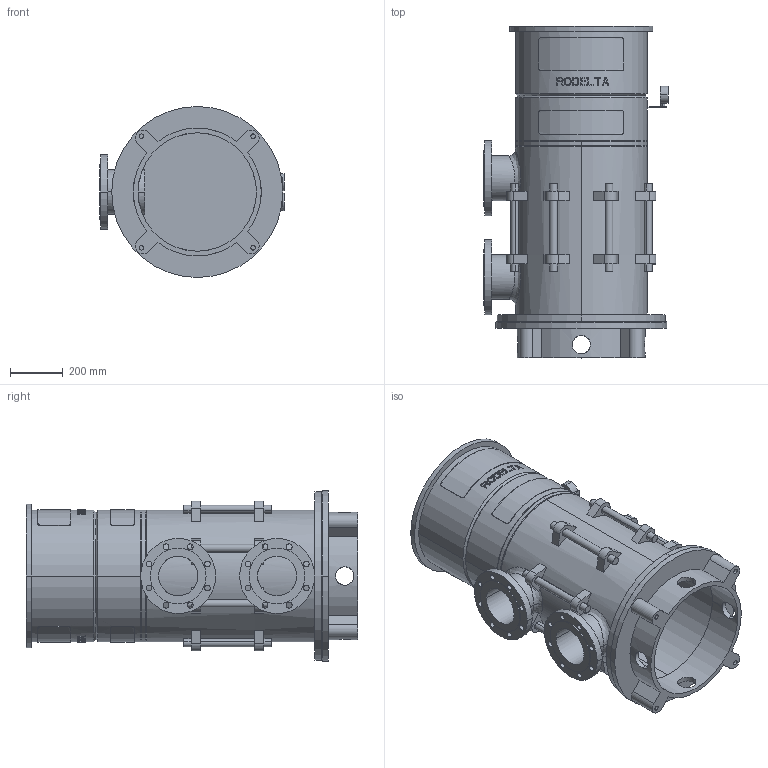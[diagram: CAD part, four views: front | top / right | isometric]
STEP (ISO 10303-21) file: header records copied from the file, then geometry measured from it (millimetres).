
FILE_DESCRIPTION((''),'2;1');
FILE_NAME('LS6_2TR_0GR_ABOVE_30KW','2023-08-15T',('Lyritlocal'),(''),'PRO/ENGINEER BY PARAMETRIC TECHNOLOGY CORPORATION, 2016360','PRO/ENGINEER BY PARAMETRIC TECHNOLOGY CORPORATION, 2016360','');
FILE_SCHEMA(('CONFIG_CONTROL_DESIGN'));
Length unit declared in the file: millimetre
Products named in the file (1): LS6_2TR_0GR_ABOVE_30KW
Bounding box: 700 x 1261 x 650 mm (x, y, z)
Volume: 44515247.2 mm3; surface area: 5930606.1 mm2
Topology: 3 solids, 7 shells, 684 faces, 1767 edges, 1174 vertices
Faces by surface type: plane 422, cylinder 242, cone 12, bspline 8
Entity records: 22573 total; most frequent: CARTESIAN_POINT 5961, ORIENTED_EDGE 3518, DIRECTION 3273, EDGE_CURVE 1767, AXIS2_PLACEMENT_3D 1237, VERTEX_POINT 1174, EDGE_LOOP 829, VECTOR 799
